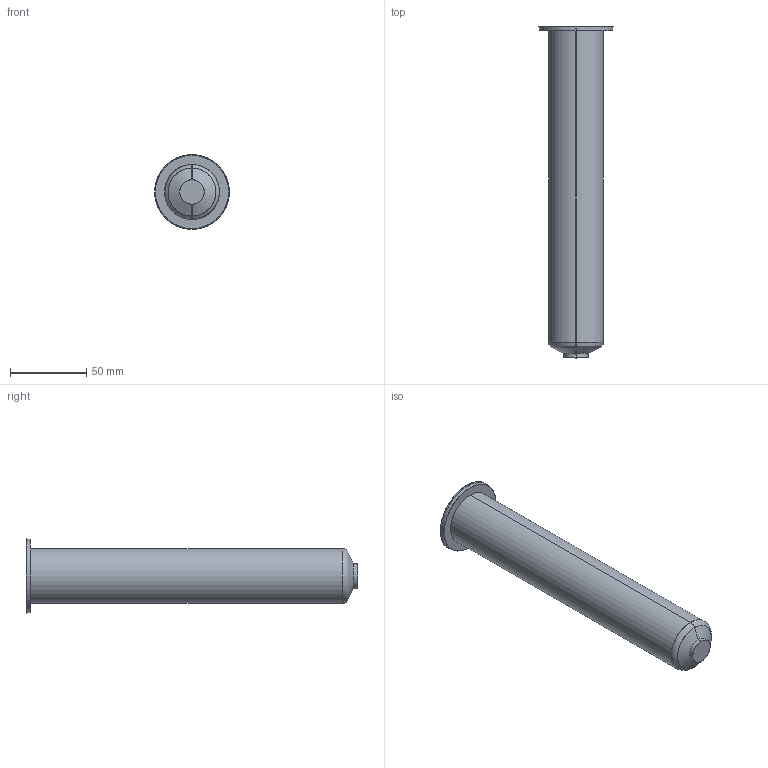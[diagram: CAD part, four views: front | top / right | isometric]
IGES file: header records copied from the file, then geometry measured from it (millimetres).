
Start section: SolidWorks IGES file using analytic representation for surfaces
Global section: file name: C:\Documents and Settings\ws-20\Desktop\TEMPORANEA\Sede UGBE5005-M-A C-214 L-234 P-0.IGS; native system: SolidWorks 2012; preprocessor: SolidWorks 2012; author: ws-20; date: 120307.090655; units: millimetre
Bounding box: 49 x 217.54 x 49 mm (x, y, z)
Surface area: 27744.9 mm2 (no closed solid volume)
Topology: 0 solids, 0 shells, 15 faces, 272 edges, 272 vertices
Faces by surface type: revolution 10, bspline 5
